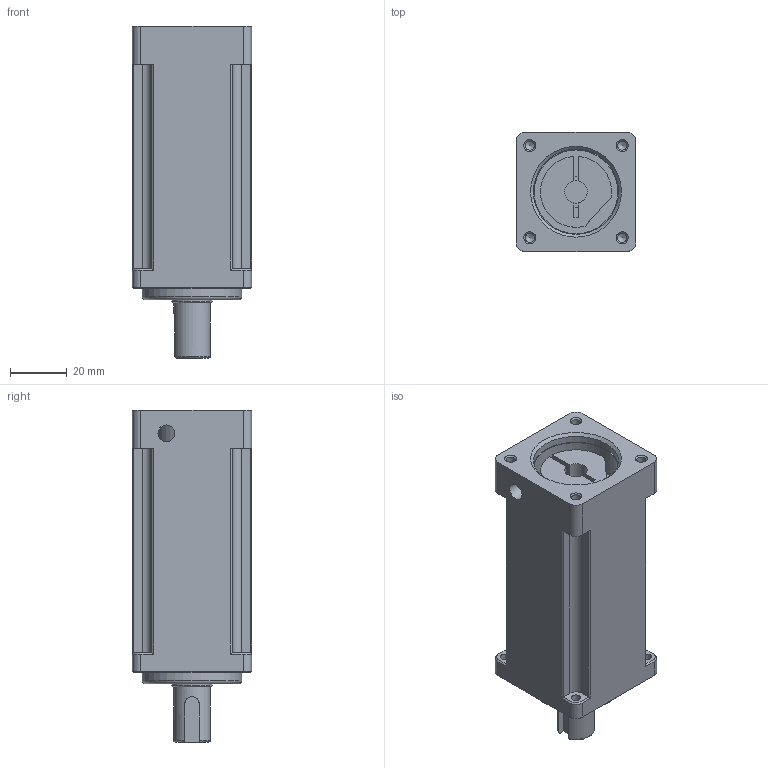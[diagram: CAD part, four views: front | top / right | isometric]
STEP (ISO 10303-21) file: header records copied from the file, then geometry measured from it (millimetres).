
FILE_DESCRIPTION((''),'2;1');
FILE_NAME('D:\유성\유성\도면\3D\2. 홈페이지용 3D 도면 (ipt)\외부도\SPI042 2단\SPI(H)042 SERIES (2 STAGE-KA TYPE)_Shrinkwrap_1.stp','2014-05-08T13:11:47',('nagyu'),(''),'Autodesk Inventor 2013','Autodesk Inventor 2013','');
FILE_SCHEMA(('AUTOMOTIVE_DESIGN { 1 0 10303 214 1 1 1 1 }'));
Length unit declared in the file: millimetre
Products named in the file (1): SPI(H)042 SERIES (2 STAGE-KA TYPE)_Shrinkwrap_1
Bounding box: 42 x 42 x 117 mm (x, y, z)
Volume: 148899.3 mm3; surface area: 24042.1 mm2
Topology: 1 solids, 1 shells, 125 faces, 324 edges, 206 vertices
Faces by surface type: plane 62, cylinder 41, cone 19, torus 3
Full cylindrical faces by diameter (mm): 3.242 x4, 3.4 x4, 4 x1, 4.3 x1, 6 x1, 8 x1, 11 x1, 13 x1, 14.2 x1, 29.5 x1, 30 x1, 35 x1
Entity records: 3637 total; most frequent: CARTESIAN_POINT 670, DIRECTION 633, ORIENTED_EDGE 558, EDGE_CURVE 279, AXIS2_PLACEMENT_3D 233, VERTEX_POINT 192, EDGE_LOOP 173, VECTOR 167
